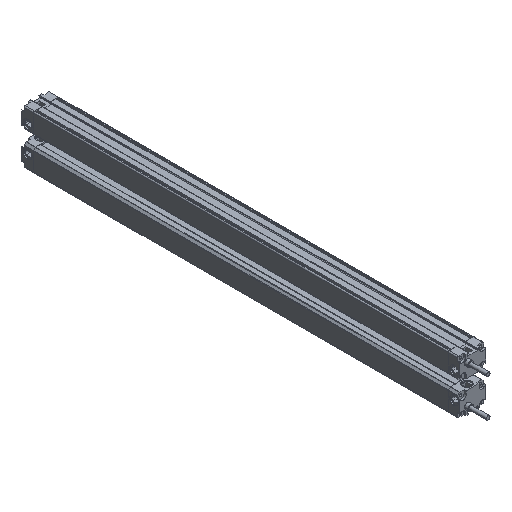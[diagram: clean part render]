
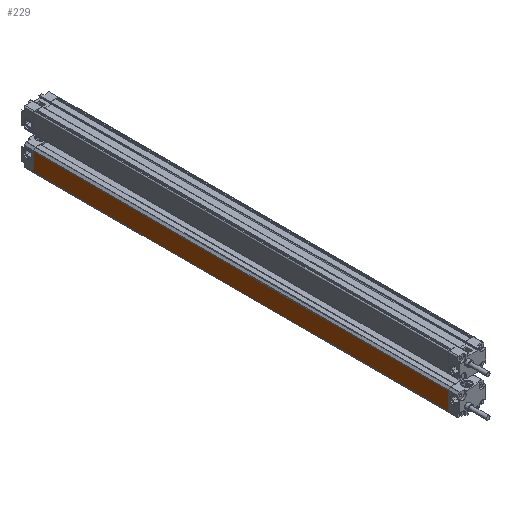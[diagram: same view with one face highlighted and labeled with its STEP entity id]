
A CAD part, isometric view. The second image highlights one B-rep face of the part: STEP entity #229.
In plain terms, the highlighted planar face has unit normal (-1, 0, 0).
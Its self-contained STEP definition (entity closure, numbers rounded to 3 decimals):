
#229 = ADVANCED_FACE ( 'NONE', ( #4391 ), #7504, .T. ) ;
#353 = CARTESIAN_POINT ( 'NONE',  ( -12.5, -400., 8.293 ) ) ;
#519 = EDGE_CURVE ( 'NONE', #10321, #5419, #5678, .T. ) ;
#634 = DIRECTION ( 'NONE',  ( 0., 0., 1. ) ) ;
#720 = VECTOR ( 'NONE', #6156, 1000. ) ;
#891 = EDGE_CURVE ( 'NONE', #2417, #10321, #8843, .T. ) ;
#915 = AXIS2_PLACEMENT_3D ( 'NONE', #5676, #9209, #634 ) ;
#1099 = CARTESIAN_POINT ( 'NONE',  ( -12.5, -400., 8.293 ) ) ;
#1220 = CARTESIAN_POINT ( 'NONE',  ( -12.5, 0., -9.2 ) ) ;
#1597 = EDGE_CURVE ( 'NONE', #1969, #5419, #4001, .T. ) ;
#1969 = VERTEX_POINT ( 'NONE', #353 ) ;
#2174 = EDGE_LOOP ( 'NONE', ( #5464, #9312, #9663, #5363 ) ) ;
#2417 = VERTEX_POINT ( 'NONE', #6986 ) ;
#2438 = CARTESIAN_POINT ( 'NONE',  ( -12.5, 0., -9.2 ) ) ;
#2837 = CARTESIAN_POINT ( 'NONE',  ( -12.5, 0., 8.293 ) ) ;
#3250 = VECTOR ( 'NONE', #6726, 1000. ) ;
#3381 = CARTESIAN_POINT ( 'NONE',  ( -12.5, -400., -9.2 ) ) ;
#3400 = CARTESIAN_POINT ( 'NONE',  ( -12.5, -400., -9.2 ) ) ;
#3493 = LINE ( 'NONE', #3400, #10777 ) ;
#4001 = LINE ( 'NONE', #1099, #720 ) ;
#4376 = VECTOR ( 'NONE', #4603, 1000. ) ;
#4391 = FACE_OUTER_BOUND ( 'NONE', #2174, .T. ) ;
#4603 = DIRECTION ( 'NONE',  ( 0., 0., 1. ) ) ;
#4792 = EDGE_CURVE ( 'NONE', #2417, #1969, #3493, .T. ) ;
#5363 = ORIENTED_EDGE ( 'NONE', *, *, #1597, .T. ) ;
#5419 = VERTEX_POINT ( 'NONE', #2837 ) ;
#5464 = ORIENTED_EDGE ( 'NONE', *, *, #519, .F. ) ;
#5676 = CARTESIAN_POINT ( 'NONE',  ( -12.5, -400., -9.2 ) ) ;
#5678 = LINE ( 'NONE', #1220, #4376 ) ;
#6156 = DIRECTION ( 'NONE',  ( 0., 1., 0. ) ) ;
#6726 = DIRECTION ( 'NONE',  ( 0., 1., 0. ) ) ;
#6986 = CARTESIAN_POINT ( 'NONE',  ( -12.5, -400., -9.2 ) ) ;
#7504 = PLANE ( 'NONE',  #915 ) ;
#7749 = DIRECTION ( 'NONE',  ( 0., 0., 1. ) ) ;
#8843 = LINE ( 'NONE', #3381, #3250 ) ;
#9209 = DIRECTION ( 'NONE',  ( -1., 0., 0. ) ) ;
#9312 = ORIENTED_EDGE ( 'NONE', *, *, #891, .F. ) ;
#9663 = ORIENTED_EDGE ( 'NONE', *, *, #4792, .T. ) ;
#10321 = VERTEX_POINT ( 'NONE', #2438 ) ;
#10777 = VECTOR ( 'NONE', #7749, 1000. ) ;
